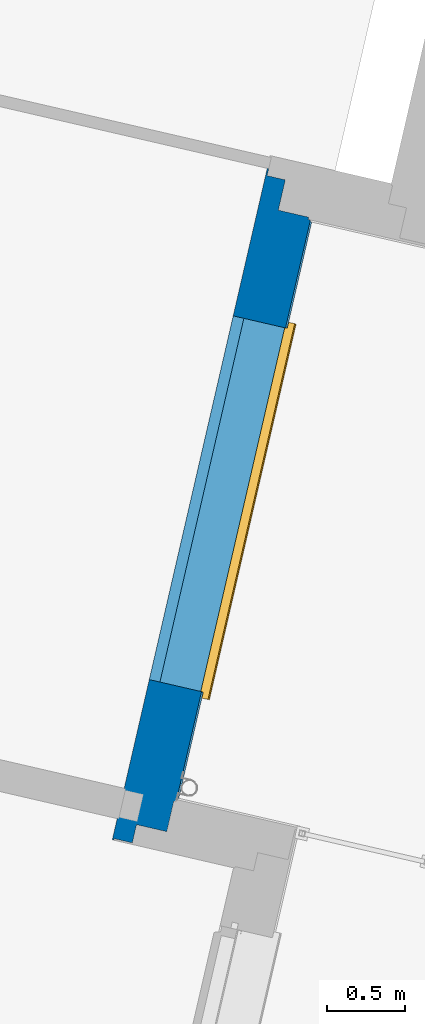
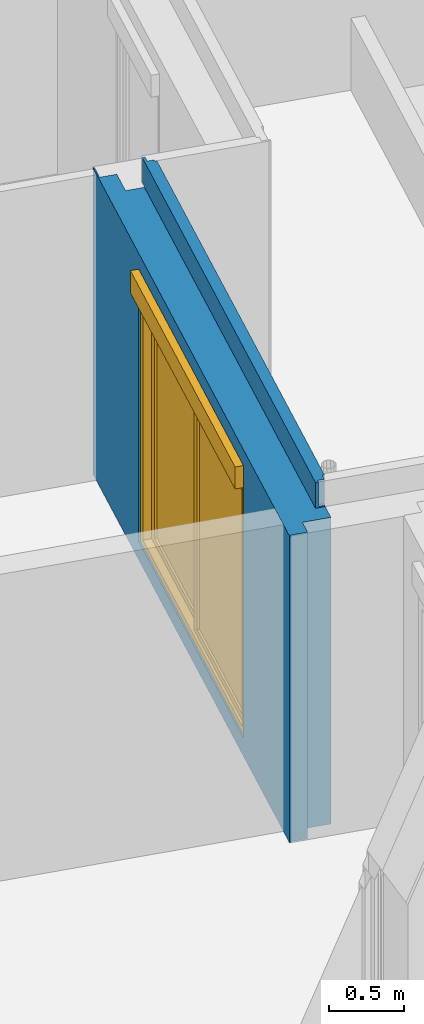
# One storey, part 23 of 119: 1 wall, 1 window, 1 opening.
"""IFC2X3 building model written with IfcOpenShell, lengths in metres."""

from ifc_helpers import new_model, entity, si_unit, converted_unit, derived_unit, money_unit, direction, frame, origin_with_axes, place, context, subcontext, project, spatial, open_shell, faceted_brep, surface_model, source, transform, mapped, material, material_list, type_object, element, fill, save


model = new_model("IFC2X3")

# Units and contexts
model_context = context("Model", 3, precision=1e-05, world=origin_with_axes(), true_north=direction((0.0, 1.0)))
body_context = subcontext(model_context, "Body", "Model", "MODEL_VIEW")
ifc_project = project(units=[si_unit("LENGTHUNIT", "METRE"), si_unit("AREAUNIT", "SQUARE_METRE"), si_unit("VOLUMEUNIT", "CUBIC_METRE"), converted_unit("PLANEANGLEUNIT", "DEGREE", entity("IfcPlaneAngleMeasure", 0.0174532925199), si_unit("PLANEANGLEUNIT", "RADIAN"), dimensions=[0, 0, 0, 0, 0, 0, 0]), si_unit("SOLIDANGLEUNIT", "STERADIAN"), money_unit("EUR"), converted_unit("TIMEUNIT", "Year", entity("IfcTimeMeasure", 31556926.0), si_unit("TIMEUNIT", "SECOND"), dimensions=[0, 0, 1, 0, 0, 0, 0]), si_unit("MASSUNIT", "GRAM", prefix="KILO"), si_unit("THERMODYNAMICTEMPERATUREUNIT", "DEGREE_CELSIUS"), si_unit("LUMINOUSINTENSITYUNIT", "LUMEN"), si_unit("ENERGYUNIT", "JOULE", prefix="MEGA"), derived_unit("THERMALCONDUCTANCEUNIT", [(si_unit("POWERUNIT", "WATT"), 1), (si_unit("LENGTHUNIT", "METRE"), -1), (si_unit("THERMODYNAMICTEMPERATUREUNIT", "KELVIN"), -1)]), derived_unit("SPECIFICHEATCAPACITYUNIT", [(si_unit("ENERGYUNIT", "JOULE"), 1), (si_unit("MASSUNIT", "GRAM", prefix="KILO"), -1), (si_unit("THERMODYNAMICTEMPERATUREUNIT", "KELVIN"), -1)]), derived_unit("MASSDENSITYUNIT", [(si_unit("MASSUNIT", "GRAM", prefix="KILO"), 1), (si_unit("VOLUMEUNIT", "CUBIC_METRE"), -1)])], contexts=[model_context])

# Site, building, storey
site_placement = place(None, origin_with_axes())
site = spatial("IfcSite", under=ifc_project, at=site_placement, Name="Site", CompositionType="ELEMENT")
building_placement = place(site_placement, origin_with_axes())
building = spatial("IfcBuilding", under=site, at=building_placement, Name="Bâtiment", CompositionType="ELEMENT")
storey_placement = place(building_placement, origin_with_axes())
storey = spatial("IfcBuildingStorey", under=building, at=storey_placement, Name="Rez-de-chaussée", CompositionType="ELEMENT", Elevation=0.0)

# Wall, opening, window
ifc_material_1 = material(Name="Métal - Aluminium")
ifc_material_2 = material(Name="Finition ext - Crépis")
ifc_material_3 = material(Name="Etanchéité - Bitume")
ifc_material_4 = material(Name="Béton cellulaire")
ifc_material_5 = material(Name="Mortier")
ifc_material_6 = material(Name="Isolation - Polystyrène expansé")
ifc_material_7 = material(Name="Bloc ELITHERM")
ifc_material_8 = material(Name="Isolation - Polystyrène extrudé")
ifc_material_9 = material(Name="Finition int - Plaque de plâtre")
ifc_material_list = material_list([ifc_material_1, ifc_material_2, ifc_material_3, ifc_material_4, ifc_material_5, ifc_material_6, ifc_material_7, ifc_material_8, ifc_material_9])
wall_type = type_object("IfcWallType", Name="Mur ALKERN + planelle 21 TERRASSE RDC 356 x 2720", PredefinedType="USERDEFINED")
wall_placement = place(storey_placement, frame((-7.00586004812, -13.9465001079, 0.0), z_axis=(0.0, 0.0, 1.0), x_axis=(-0.224876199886, -0.97438734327, 0.0)))
wall = element("IfcWall", 1, at=wall_placement, inside=storey, type_object=wall_type, material=ifc_material_list, Name="Mue bloc ALKERN isolé", ObjectType="SOLIDWALL", context=body_context, shape_type="Brep", body=[
    faceted_brep([(3.0975038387, -0.0035607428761, 0.133633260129), (3.0975038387, -0.0035607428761, 0.15), (3.0975038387, -0.0035607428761, 0.162931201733), (3.8033977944, -0.0035607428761, 0.162931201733), (3.79980250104, -0.0035607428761, 0.161852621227), (3.79980250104, -0.0035607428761, 0.160000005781), (3.79980250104, -0.0035607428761, 0.133633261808), (3.0975038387, -0.00479482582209, 0.15), (3.0975038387, -0.00479482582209, 0.133633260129), (3.0975038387, -0.00479482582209, 0.161852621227), (3.0975038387, -0.03, 0.169414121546), (3.0975038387, -0.0310453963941, 0.169727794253), (3.0975038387, -0.0310453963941, 0.207793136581), (3.0975038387, -0.03, 0.207793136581), (3.0975038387, -0.0300000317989, 0.176532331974), (3.0975038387, -0.03, 0.170774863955), (3.82605305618, -0.0264705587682, 0.169727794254), (3.82500767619, -0.025413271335, 0.169414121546), (3.82605305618, -0.03, 0.170774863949), (3.79980250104, -0.00479482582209, 0.161852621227), (3.82500767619, -0.03, 0.169414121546), (3.79980250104, -0.00479482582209, 0.160000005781), (3.79980250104, -0.00479482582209, 0.133633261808), (3.82605305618, -0.0310453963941, 0.169727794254), (3.82605305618, -0.0310453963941, 0.176532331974), (3.82605305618, -0.0310453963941, 0.207793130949), (3.82605305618, -0.03, 0.207793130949), (3.82605305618, -0.0300000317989, 0.176532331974)], [[[0, 1, 2, 3, 4, 5, 6]], [[7, 1, 0, 8]], [[1, 7, 9, 10, 11, 12, 13, 14, 15, 2]], [[16, 17, 3, 2, 15, 18]], [[19, 4, 3, 17, 20]], [[5, 4, 19, 21]], [[5, 21, 22, 6]], [[8, 0, 6, 22]], [[7, 8, 22, 21, 19, 9]], [[9, 19, 20, 10]], [[10, 20, 23, 11]], [[23, 24, 25, 12, 11]], [[12, 25, 26, 13]], [[13, 26, 27, 14]], [[14, 27, 18, 15]], [[23, 20, 17, 16]], [[18, 27, 24, 23, 16]], [[25, 24, 27, 26]]]),
    faceted_brep([(0.6975038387, -0.00479482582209, 0.15), (0.6975038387, -0.0035607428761, 0.15), (0.6975038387, -0.0035607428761, 0.162931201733), (0.6975038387, -0.03, 0.170774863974), (0.6975038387, -0.0300000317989, 0.176532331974), (0.6975038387, -0.03, 0.207793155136), (0.6975038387, -0.0310453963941, 0.207793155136), (0.6975038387, -0.0310453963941, 0.169727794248), (0.6975038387, -0.03, 0.169414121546), (0.6975038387, -0.00479482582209, 0.161852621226), (0.6975038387, -0.0035607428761, 0.133633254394), (0.6975038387, -0.00479482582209, 0.133633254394), (-0.00356074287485, -0.0035607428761, 0.133633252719), (-0.00356074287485, -0.0035607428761, 0.160000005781), (-0.00356074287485, -0.0035607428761, 0.162931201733), (-0.0254132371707, -0.0254132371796, 0.169414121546), (-0.0299999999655, -0.03, 0.17077486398), (-0.0300000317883, -0.0300000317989, 0.176532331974), (-0.0299999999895, -0.03, 0.207793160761), (-0.0299999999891, -0.0310453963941, 0.207793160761), (-0.030000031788, -0.0310453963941, 0.176532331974), (-0.0299999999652, -0.0310453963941, 0.17077486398), (-0.0264705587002, -0.0310453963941, 0.169727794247), (-0.0254132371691, -0.03, 0.169414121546), (-0.00356074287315, -0.00839012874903, 0.162931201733), (-0.00356074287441, -0.00479482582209, 0.161852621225), (-0.00356074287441, -0.00479482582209, 0.160000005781), (-0.00356074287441, -0.00479482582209, 0.133633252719)], [[[0, 1, 2, 3, 4, 5, 6, 7, 8, 9]], [[10, 1, 0, 11]], [[1, 10, 12, 13, 14, 2]], [[14, 15, 16, 3, 2]], [[3, 16, 17, 4]], [[4, 17, 18, 5]], [[5, 18, 19, 6]], [[20, 21, 22, 7, 6, 19]], [[7, 22, 23, 8]], [[23, 24, 25, 9, 8]], [[11, 0, 9, 25, 26, 27]], [[10, 11, 27, 12]], [[26, 13, 12, 27]], [[13, 26, 25, 24, 14]], [[23, 15, 14, 24]], [[21, 16, 15, 23, 22]], [[21, 20, 17, 16]], [[20, 19, 18, 17]]]),
    faceted_brep([(3.0975038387, -0.0150000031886, 0.176532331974), (3.0975038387, -0.0150000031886, 2.2), (0.6975038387, -0.0150000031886, 2.2), (0.6975038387, -0.0150000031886, 0.176532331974), (-0.0150000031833, -0.0150000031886, 0.176532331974), (-0.0150000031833, -0.0150000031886, 2.72), (3.82500767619, -0.0150000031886, 2.72), (3.82500770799, -0.0150000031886, 0.176532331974), (3.0975038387, -0.0300000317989, 0.176532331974), (3.0975038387, -0.0299999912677, 2.2), (0.6975038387, -0.0299999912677, 2.2), (0.6975038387, -0.0300000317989, 0.176532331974), (-0.0150000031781, -0.0300000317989, 0.176532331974), (-0.0150000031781, -0.0299999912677, 2.72), (3.82500767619, -0.0299999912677, 2.72), (3.82500770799, -0.0300000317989, 0.176532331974)], [[[0, 1, 2, 3, 4, 5, 6, 7]], [[1, 0, 8, 9]], [[2, 1, 9, 10]], [[3, 2, 10, 11]], [[3, 11, 12, 4]], [[13, 5, 4, 12]], [[14, 6, 5, 13]], [[6, 14, 15, 7]], [[8, 0, 7, 15]], [[9, 8, 15, 14, 13, 12, 11, 10]]]),
    faceted_brep([(0.6975038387, -0.0299999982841, 0.15), (0.6975038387, -0.0299999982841, 0.09), (0.6975038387, -0.02, 0.09), (0.6975038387, -0.02, 0.15), (0.6975038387, -0.02, 0.160000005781), (0.6975038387, -0.0300000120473, 0.160000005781), (-0.0199999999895, -0.0300000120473, 0.160000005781), (-0.0199999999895, -0.0299999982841, 0.01), (3.82500767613, -0.0299999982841, 0.01), (3.82500768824, -0.0300000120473, 0.160000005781), (3.0975038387, -0.0300000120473, 0.160000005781), (3.0975038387, -0.0299999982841, 0.15), (3.0975038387, -0.0299999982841, 0.09), (3.0975038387, -0.02, 0.09), (3.0975038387, -0.02, 0.15), (3.0975038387, -0.02, 0.160000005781), (3.82500768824, -0.02, 0.160000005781), (3.82500767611, -0.02, 0.01), (-0.019999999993, -0.02, 0.01), (-0.019999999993, -0.02, 0.160000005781)], [[[0, 1, 2, 3, 4, 5]], [[1, 0, 5, 6, 7, 8, 9, 10, 11, 12]], [[13, 2, 1, 12]], [[13, 14, 15, 16, 17, 18, 19, 4, 3, 2]], [[4, 19, 6, 5]], [[6, 19, 18, 7]], [[17, 8, 7, 18]], [[16, 9, 8, 17]], [[10, 9, 16, 15]], [[14, 13, 12, 11, 10, 15]]]),
    faceted_brep([(3.8730076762, -0.0780000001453, 2.72), (3.87300767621, -0.03, 2.72), (-0.0299999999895, -0.03, 2.72), (-0.0299999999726, -0.0780000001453, 2.72), (3.87300767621, -0.03, 2.51999999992), (3.8730076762, -0.0780000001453, 2.51999999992), (-0.0299999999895, -0.03, 2.51999999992), (-0.0299999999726, -0.0780000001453, 2.51999999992)], [[[0, 1, 2, 3]], [[4, 1, 0, 5]], [[1, 4, 6, 2]], [[3, 2, 6, 7]], [[5, 0, 3, 7]], [[4, 5, 7, 6]]]),
    faceted_brep([(-0.0299999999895, -0.03, 2.50955), (-0.0299999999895, -0.03, 2.52), (3.89300766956, -0.03, 2.52), (3.89300766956, -0.03, 2.50955002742), (-0.0299999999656, -0.098, 2.52), (-0.0299999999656, -0.098, 2.50955), (3.89300766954, -0.098, 2.52), (3.89300766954, -0.098, 2.50955002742)], [[[0, 1, 2, 3]], [[4, 1, 0, 5]], [[1, 4, 6, 2]], [[7, 3, 2, 6]], [[5, 0, 3, 7]], [[4, 5, 7, 6]]]),
    faceted_brep([(3.89300766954, -0.0780000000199, 2.51999999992), (-0.0779999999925, -0.0780000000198, 2.51999999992), (-0.0779999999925, -0.0780000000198, 2.72), (3.89300766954, -0.0780000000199, 2.72), (3.89300766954, -0.0980000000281, 2.51999999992), (-0.0779999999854, -0.0980000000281, 2.51999999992), (-0.0779999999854, -0.0980000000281, 2.72), (3.89300766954, -0.0980000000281, 2.72)], [[[0, 1, 2, 3]], [[4, 5, 1, 0]], [[5, 6, 2, 1]], [[3, 2, 6, 7]], [[7, 4, 0, 3]], [[7, 6, 5, 4]]]),
    faceted_brep([(0.6975038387, -0.229999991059, 0.15), (0.6975038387, -0.229999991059, 0.09), (0.6975038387, -0.0300000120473, 0.09), (0.6975038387, -0.0300000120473, 0.15), (0.6975038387, -0.0300000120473, 0.160000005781), (0.6975038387, -0.03, 0.169414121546), (0.6975038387, -0.0310453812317, 0.169727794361), (0.6975038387, -0.0310453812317, 0.207793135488), (0.6975038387, -0.03, 0.207793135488), (0.6975038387, -0.03, 2.2), (0.6975038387, -0.218560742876, 2.2), (0.6975038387, -0.218560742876, 2.38), (0.6975038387, -0.229999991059, 2.38), (0.6975038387, -0.229999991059, 2.2), (-0.0299999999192, -0.229999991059, 0.207793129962), (-0.0310453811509, -0.229999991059, 0.207793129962), (-0.0310453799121, -0.229999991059, 0.169727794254), (-0.0299999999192, -0.229999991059, 0.169414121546), (-0.0300000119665, -0.229999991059, 0.160000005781), (-0.0299999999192, -0.229999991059, 0.0), (4.02500765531, -0.229999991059, 0.0), (4.02500765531, -0.229999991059, 2.50955001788), (-0.0299999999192, -0.229999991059, 2.50955001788), (3.0975038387, -0.229999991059, 2.38), (3.0975038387, -0.229999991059, 2.2), (3.0975038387, -0.229999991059, 0.15), (3.0975038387, -0.229999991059, 0.09), (3.0975038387, -0.0300000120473, 0.09), (3.0975038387, -0.0300000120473, 0.15), (3.0975038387, -0.0300000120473, 0.160000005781), (4.02500765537, -0.0300000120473, 0.160000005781), (4.02500765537, -0.03, 0.0), (-0.0299999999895, -0.03, 0.0), (-0.0300000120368, -0.0300000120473, 0.160000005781), (-0.0299999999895, -0.03, 0.169414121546), (-0.0310453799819, -0.0310453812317, 0.169727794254), (-0.0299999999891, -0.0310453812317, 0.207793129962), (-0.0310453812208, -0.0310453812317, 0.207793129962), (-0.0299999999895, -0.03, 0.207793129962), (-0.0299999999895, -0.03, 2.50955001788), (4.02500765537, -0.03, 2.50955001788), (4.02500765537, -0.03, 0.207793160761), (3.0975038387, -0.03, 0.207793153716), (3.0975038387, -0.03, 2.2), (3.0975038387, -0.218560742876, 2.2), (3.0975038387, -0.218560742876, 2.38), (4.02500765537, -0.03, 0.169414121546), (4.02500765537, -0.0310453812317, 0.169727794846), (4.02500765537, -0.0310453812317, 0.207793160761), (4.02500765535, -0.0979999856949, 2.50955001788), (-0.0299999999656, -0.0979999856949, 2.50955001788), (3.0975038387, -0.0310453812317, 0.207793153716), (3.0975038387, -0.0310453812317, 0.16972779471), (3.0975038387, -0.03, 0.169414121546)], [[[0, 1, 2, 3, 4, 5, 6, 7, 8, 9, 10, 11, 12, 13]], [[14, 15, 16, 17, 18, 19, 20, 21, 22], [1, 0, 13, 12, 23, 24, 25, 26]], [[27, 2, 1, 26]], [[27, 28, 29, 30, 31, 32, 33, 4, 3, 2]], [[33, 34, 5, 4]], [[34, 35, 6, 5]], [[36, 7, 6, 35, 37]], [[36, 38, 8, 7]], [[9, 8, 38, 39, 40, 41, 42, 43]], [[10, 9, 43, 44]], [[44, 45, 11, 10]], [[12, 11, 45, 23]], [[37, 15, 14, 36]], [[15, 37, 35, 16]], [[16, 35, 34, 17]], [[18, 17, 34, 33]], [[18, 33, 32, 19]], [[19, 32, 31, 20]], [[46, 47, 48, 41, 40, 49, 21, 20, 31, 30]], [[22, 21, 49, 50]], [[39, 38, 36, 14, 22, 50]], [[28, 27, 26, 25, 24, 23, 45, 44, 43, 42, 51, 52, 53, 29]], [[46, 30, 29, 53]], [[50, 49, 40, 39]], [[41, 48, 51, 42]], [[47, 46, 53, 52]], [[48, 47, 52, 51]]]),
    faceted_brep([(0.6975038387, -0.289560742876, 0.15), (0.6975038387, -0.289560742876, 0.09), (0.6975038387, -0.22999997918, 0.09), (0.6975038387, -0.22999997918, 0.15), (0.6975038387, -0.22999997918, 2.2), (0.6975038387, -0.22999997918, 2.38), (0.6975038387, -0.350000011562, 2.38), (0.6975038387, -0.350000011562, 2.2), (0.6975038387, -0.350000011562, 0.15), (3.0975038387, -0.289560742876, 0.15), (3.0975038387, -0.289560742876, 0.09), (3.0975038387, -0.22999997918, 0.09), (-0.229999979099, -0.22999997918, 2.50955001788), (4.14500768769, -0.22999997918, 2.50955001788), (4.14500768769, -0.22999997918, 0.0), (-0.229999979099, -0.22999997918, 0.0), (3.0975038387, -0.22999997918, 0.15), (3.0975038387, -0.22999997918, 2.2), (3.0975038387, -0.22999997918, 2.38), (3.0975038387, -0.350000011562, 2.38), (4.14500768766, -0.350000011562, 2.50955001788), (-0.229999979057, -0.350000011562, 2.50955001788), (-0.229999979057, -0.350000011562, 0.0), (4.14500768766, -0.350000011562, 0.0), (3.0975038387, -0.350000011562, 2.2), (3.0975038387, -0.350000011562, 0.15)], [[[0, 1, 2, 3, 4, 5, 6, 7, 8]], [[0, 9, 10, 1]], [[11, 2, 1, 10]], [[12, 13, 14, 15], [11, 16, 17, 18, 5, 4, 3, 2]], [[18, 19, 6, 5]], [[20, 21, 22, 23], [8, 7, 6, 19, 24, 25]], [[9, 0, 8, 25]], [[16, 11, 10, 9, 25, 24, 19, 18, 17]], [[21, 20, 13, 12]], [[14, 13, 20, 23]], [[15, 14, 23, 22]], [[22, 21, 12, 15]]]),
    faceted_brep([(4.15500765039, -0.350000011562, 0.0), (-0.350000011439, -0.350000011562, 0.0), (-0.350000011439, -0.350000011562, 2.50955001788), (4.15500765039, -0.350000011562, 2.50955002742), (3.0975038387, -0.350000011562, 2.2), (3.0975038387, -0.350000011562, 2.38), (0.6975038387, -0.350000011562, 2.38), (0.6975038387, -0.350000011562, 2.2), (0.6975038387, -0.350000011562, 0.15), (3.0975038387, -0.350000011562, 0.15), (4.15500765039, -0.359999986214, 0.0), (-0.350000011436, -0.359999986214, 0.0), (-0.350000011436, -0.359999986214, 2.50955001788), (4.15500765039, -0.359999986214, 2.50955002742), (3.0975038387, -0.359999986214, 2.2), (3.0975038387, -0.359999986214, 2.38), (0.6975038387, -0.359999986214, 2.38), (0.6975038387, -0.359999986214, 2.2), (0.6975038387, -0.359999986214, 0.15), (3.0975038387, -0.359999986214, 0.15)], [[[0, 1, 2, 3], [4, 5, 6, 7, 8, 9]], [[1, 0, 10, 11]], [[2, 1, 11, 12]], [[12, 13, 3, 2]], [[0, 3, 13, 10]], [[5, 4, 14, 15]], [[6, 5, 15, 16]], [[7, 6, 16, 17]], [[7, 17, 18, 8]], [[8, 18, 19, 9]], [[14, 4, 9, 19]], [[11, 10, 13, 12], [15, 14, 19, 18, 17, 16]]]),
])
opening_placement = place(wall_placement, frame((1.8975038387, 0.0, 0.15), z_axis=(0.0, 0.0, 1.0), x_axis=(1.0, 0.0, 0.0)))
opening = element("IfcOpeningElement", 2, at=opening_placement, cuts=wall, Name="MEN 30", context=body_context, shape_type="Brep", body=[
    faceted_brep([(-1.2, -0.248560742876, 0.0), (1.2, -0.248560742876, 0.0), (1.2, -0.849999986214, 0.0), (-1.2, -0.849999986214, 0.0), (-1.2, -0.248560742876, 2.05), (1.2, -0.248560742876, 2.05), (1.2, -0.849999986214, 2.05), (-1.2, -0.849999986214, 2.05)], [[[0, 1, 2, 3]], [[0, 4, 5, 1]], [[1, 5, 6, 2]], [[3, 2, 6, 7]], [[4, 0, 3, 7]], [[5, 4, 7, 6]]]),
    faceted_brep([(-1.2, -0.248560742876, 0.0), (-1.2, -0.248560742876, 2.05), (-1.2, 0.352878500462, 2.05), (-1.2, 0.352878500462, 0.0), (1.2, -0.248560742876, 0.0), (1.2, -0.248560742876, 2.05), (1.2, 0.352878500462, 2.05), (1.2, 0.352878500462, 0.0)], [[[0, 1, 2, 3]], [[0, 4, 5, 1]], [[1, 5, 6, 2]], [[3, 2, 6, 7]], [[4, 0, 3, 7]], [[5, 4, 7, 6]]]),
    faceted_brep([(-1.2, -0.248560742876, 0.0), (-1.2, -0.248560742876, 2.05), (-1.2, 0.352878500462, 2.05), (-1.2, 0.352878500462, 0.0), (1.2, -0.248560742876, 0.0), (1.2, -0.248560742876, 2.05), (1.2, 0.352878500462, 2.05), (1.2, 0.352878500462, 0.0)], [[[0, 1, 2, 3]], [[0, 4, 5, 1]], [[1, 5, 6, 2]], [[3, 2, 6, 7]], [[4, 0, 3, 7]], [[5, 4, 7, 6]]]),
    faceted_brep([(-1.2, -0.218560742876, 2.05), (1.2, -0.218560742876, 2.05), (1.2, -0.819999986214, 2.05), (-1.2, -0.819999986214, 2.05), (-1.2, -0.218560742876, 2.23), (1.2, -0.218560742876, 2.23), (1.2, -0.819999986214, 2.23), (-1.2, -0.819999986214, 2.23)], [[[0, 1, 2, 3]], [[0, 4, 5, 1]], [[1, 5, 6, 2]], [[3, 2, 6, 7]], [[4, 0, 3, 7]], [[5, 4, 7, 6]]]),
    faceted_brep([(-1.2, -0.289560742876, 0.0), (1.2, -0.289560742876, 0.0), (1.2, 0.311878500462, 0.0), (-1.2, 0.311878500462, 0.0), (-1.2, -0.289560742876, -0.06), (1.2, -0.289560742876, -0.06), (1.2, 0.311878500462, -0.06), (-1.2, 0.311878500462, -0.06)], [[[0, 1, 2, 3]], [[0, 4, 5, 1]], [[1, 5, 6, 2]], [[3, 2, 6, 7]], [[4, 0, 3, 7]], [[5, 4, 7, 6]]]),
])
window_style = type_object("IfcWindowStyle", Name="Baie générique 2017 v2", ConstructionType="NOTDEFINED", OperationType="NOTDEFINED", ParameterTakesPrecedence=False, Sizeable=False)
shared_shape = source(origin_with_axes(), body_context, "Body", "SurfaceModel", [
    faceted_brep([(1.2, 0.1, 0.0), (1.2, 0.0, 0.0), (-1.2, 0.0, 0.0), (-1.2, 0.1, 0.0), (1.2, 0.1, 2.05), (1.2, 0.0, 2.05), (-1.2, 0.0, 2.05), (1.14, 0.0, 0.05), (-1.14, 0.0, 0.05), (-1.14, 0.0, 2.0), (1.14, 0.0, 2.0), (-1.2, 0.1, 2.05), (1.14, 0.1, 0.05), (1.14, 0.1, 2.0), (-1.14, 0.1, 2.0), (-1.14, 0.1, 0.05)], [[[0, 1, 2, 3]], [[4, 5, 1, 0]], [[1, 5, 6, 2], [7, 8, 9, 10]], [[3, 2, 6, 11]], [[0, 3, 11, 4], [12, 13, 14, 15]], [[11, 6, 5, 4]], [[15, 8, 7, 12]], [[14, 9, 8, 15]], [[13, 10, 9, 14]], [[12, 7, 10, 13]]]),
    faceted_brep([(1.14, 0.04, 0.05), (-0.035, 0.04, 0.05), (-0.035, 0.04, 2.0), (1.14, 0.04, 2.0), (0.035, 0.04, 1.93), (0.035, 0.04, 0.1), (1.07, 0.04, 0.1), (1.07, 0.04, 1.93), (-0.035, 0.02, 0.05), (1.14, 0.02, 0.05), (1.14, 0.0, 0.05), (-0.035, 0.0, 0.05), (-0.035, 0.02, 2.0), (-0.035, 0.0, 2.0), (1.14, 0.0, 2.0), (1.14, 0.02, 2.0), (0.035, 0.0, 1.93), (0.035, 0.0, 0.1), (1.07, 0.0, 0.1), (1.07, 0.0, 1.93)], [[[0, 1, 2, 3], [4, 5, 6, 7]], [[8, 1, 0, 9, 10, 11]], [[12, 2, 1, 8, 11, 13]], [[13, 14, 15, 3, 2, 12]], [[14, 10, 9, 0, 3, 15]], [[4, 16, 17, 5]], [[17, 18, 6, 5]], [[18, 19, 7, 6]], [[7, 19, 16, 4]], [[13, 11, 10, 14], [17, 16, 19, 18]]]),
    surface_model("IfcShellBasedSurfaceModel", [(1.14, 0.04, 0.05), (-0.035, 0.04, 0.05), (-0.035, 0.04, 2.0), (1.14, 0.04, 2.0), (1.07, 0.04, 0.1), (1.07, 0.04, 1.93), (0.035, 0.04, 1.93), (0.035, 0.04, 0.1)], [open_shell([[[0, 1, 2, 3], [4, 5, 6, 7]]])]),
    surface_model("IfcShellBasedSurfaceModel", [(1.14, 0.0, 0.05), (-0.035, 0.0, 0.05), (-0.035, 0.0, 2.0), (1.14, 0.0, 2.0), (1.07, 0.0, 0.1), (1.07, 0.0, 1.93), (0.035, 0.0, 1.93), (0.035, 0.0, 0.1)], [open_shell([[[0, 1, 2, 3], [4, 5, 6, 7]]])]),
    faceted_brep([(1.07, 0.0225, 0.1), (1.07, 0.0175, 0.1), (0.035, 0.0175, 0.1), (0.035, 0.0225, 0.1), (1.07, 0.0225, 1.93), (1.07, 0.0175, 1.93), (0.035, 0.0175, 1.93), (0.035, 0.0225, 1.93)], [[[0, 1, 2, 3]], [[4, 5, 1, 0]], [[1, 5, 6, 2]], [[3, 2, 6, 7]], [[0, 3, 7, 4]], [[7, 6, 5, 4]]]),
    faceted_brep([(0.035, 0.08, 0.05), (-1.14, 0.08, 0.05), (-1.14, 0.08, 2.0), (0.035, 0.08, 2.0), (-1.07, 0.08, 1.93), (-1.07, 0.08, 0.1), (-0.035, 0.08, 0.1), (-0.035, 0.08, 1.93), (-1.14, 0.06, 0.05), (0.035, 0.06, 0.05), (0.035, 0.04, 0.05), (-1.14, 0.04, 0.05), (-1.14, 0.06, 2.0), (-1.14, 0.04, 2.0), (0.035, 0.04, 2.0), (0.035, 0.06, 2.0), (-1.07, 0.04, 1.93), (-1.07, 0.04, 0.1), (-0.035, 0.04, 0.1), (-0.035, 0.04, 1.93)], [[[0, 1, 2, 3], [4, 5, 6, 7]], [[8, 1, 0, 9, 10, 11]], [[12, 2, 1, 8, 11, 13]], [[13, 14, 15, 3, 2, 12]], [[14, 10, 9, 0, 3, 15]], [[4, 16, 17, 5]], [[17, 18, 6, 5]], [[18, 19, 7, 6]], [[7, 19, 16, 4]], [[13, 11, 10, 14], [17, 16, 19, 18]]]),
    surface_model("IfcShellBasedSurfaceModel", [(0.035, 0.08, 0.05), (-1.14, 0.08, 0.05), (-1.14, 0.08, 2.0), (0.035, 0.08, 2.0), (-0.035, 0.08, 0.1), (-0.035, 0.08, 1.93), (-1.07, 0.08, 1.93), (-1.07, 0.08, 0.1)], [open_shell([[[0, 1, 2, 3], [4, 5, 6, 7]]])]),
    surface_model("IfcShellBasedSurfaceModel", [(0.035, 0.04, 0.05), (-1.14, 0.04, 0.05), (-1.14, 0.04, 2.0), (0.035, 0.04, 2.0), (-0.035, 0.04, 0.1), (-0.035, 0.04, 1.93), (-1.07, 0.04, 1.93), (-1.07, 0.04, 0.1)], [open_shell([[[0, 1, 2, 3], [4, 5, 6, 7]]])]),
    faceted_brep([(-0.035, 0.0625, 0.1), (-0.035, 0.0575, 0.1), (-1.07, 0.0575, 0.1), (-1.07, 0.0625, 0.1), (-0.035, 0.0625, 1.93), (-0.035, 0.0575, 1.93), (-1.07, 0.0575, 1.93), (-1.07, 0.0625, 1.93)], [[[0, 1, 2, 3]], [[4, 5, 1, 0]], [[1, 5, 6, 2]], [[3, 2, 6, 7]], [[0, 3, 7, 4]], [[7, 6, 5, 4]]]),
    faceted_brep([(1.2, -0.03, 0.0), (1.2, -0.03, 2.05), (1.175, -0.03, 2.05), (1.175, -0.03, 0.0), (1.2, -0.002, 0.0), (1.2, -0.002, 2.05), (1.175, -0.002, 2.05), (1.175, -0.004, 2.05), (1.198, -0.004, 2.05), (1.198, -0.028, 2.05), (1.175, -0.028, 2.05), (1.175, -0.028, 0.0), (1.198, -0.028, 0.0), (1.198, -0.004, 0.0), (1.175, -0.004, 0.0), (1.175, -0.002, 0.0)], [[[0, 1, 2, 3]], [[4, 5, 1, 0]], [[1, 5, 6, 7, 8, 9, 10, 2]], [[3, 2, 10, 11]], [[0, 3, 11, 12, 13, 14, 15, 4]], [[15, 6, 5, 4]], [[14, 7, 6, 15]], [[13, 8, 7, 14]], [[12, 9, 8, 13]], [[11, 10, 9, 12]]]),
    faceted_brep([(-1.2, -0.03, 0.0), (-1.175, -0.03, 0.0), (-1.175, -0.03, 2.05), (-1.2, -0.03, 2.05), (-1.2, -0.002, 0.0), (-1.175, -0.002, 0.0), (-1.175, -0.004, 0.0), (-1.198, -0.004, 0.0), (-1.198, -0.028, 0.0), (-1.175, -0.028, 0.0), (-1.175, -0.028, 2.05), (-1.198, -0.028, 2.05), (-1.198, -0.004, 2.05), (-1.175, -0.004, 2.05), (-1.175, -0.002, 2.05), (-1.2, -0.002, 2.05)], [[[0, 1, 2, 3]], [[0, 4, 5, 6, 7, 8, 9, 1]], [[1, 9, 10, 2]], [[3, 2, 10, 11, 12, 13, 14, 15]], [[4, 0, 3, 15]], [[5, 4, 15, 14]], [[6, 5, 14, 13]], [[7, 6, 13, 12]], [[8, 7, 12, 11]], [[9, 8, 11, 10]]]),
    faceted_brep([(-1.198, -0.028, 2.05), (-1.198, -0.028, 2.228), (1.198, -0.028, 2.228), (1.198, -0.028, 2.05), (-1.198, -0.03, 2.05), (-1.198, -0.03, 2.23), (-1.198, 0.17, 2.23), (-1.198, 0.17, 2.05), (-1.198, 0.168, 2.05), (-1.198, 0.168, 2.228), (1.198, 0.168, 2.228), (1.198, 0.168, 2.05), (1.198, 0.17, 2.05), (1.198, 0.17, 2.23), (1.198, -0.03, 2.23), (1.198, -0.03, 2.05)], [[[0, 1, 2, 3]], [[0, 4, 5, 6, 7, 8, 9, 1]], [[1, 9, 10, 2]], [[3, 2, 10, 11, 12, 13, 14, 15]], [[4, 0, 3, 15]], [[5, 4, 15, 14]], [[6, 5, 14, 13]], [[7, 6, 13, 12]], [[8, 7, 12, 11]], [[9, 8, 11, 10]]]),
    faceted_brep([(-1.198, 0.0724697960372, 2.12436337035), (-1.198, 0.0555495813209, 2.12050144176), (-1.198, 0.041980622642, 2.13132232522), (-1.198, 0.041980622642, 2.14867767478), (-1.198, 0.0555495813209, 2.15949855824), (-1.198, 0.0724697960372, 2.15563662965), (-1.198, 0.08, 2.14), (1.198, 0.0724697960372, 2.12436337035), (1.198, 0.0555495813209, 2.12050144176), (1.198, 0.041980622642, 2.13132232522), (1.198, 0.041980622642, 2.14867767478), (1.198, 0.0555495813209, 2.15949855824), (1.198, 0.0724697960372, 2.15563662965), (1.198, 0.08, 2.14)], [[[0, 1, 2, 3, 4, 5, 6]], [[1, 0, 7, 8]], [[2, 1, 8, 9]], [[3, 2, 9, 10]], [[4, 3, 10, 11]], [[5, 4, 11, 12]], [[6, 5, 12, 13]], [[0, 6, 13, 7]], [[7, 13, 12, 11, 10, 9, 8]]]),
    faceted_brep([(-1.188, 0.130275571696, 2.10615706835), (-1.188, 0.108632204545, 2.07901714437), (-1.188, 0.0773566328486, 2.06395562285), (-1.188, 0.0426433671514, 2.06395562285), (-1.188, 0.011367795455, 2.07901714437), (-1.188, -0.0102755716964, 2.10615706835), (-1.188, -0.018, 2.14), (-1.188, -0.0102755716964, 2.17384293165), (-1.188, 0.011367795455, 2.20098285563), (-1.188, 0.0426433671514, 2.21604437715), (-1.188, 0.0773566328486, 2.21604437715), (-1.188, 0.108632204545, 2.20098285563), (-1.188, 0.130275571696, 2.17384293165), (-1.188, 0.138, 2.14), (1.188, 0.130275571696, 2.10615706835), (1.188, 0.108632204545, 2.07901714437), (1.188, 0.0773566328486, 2.06395562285), (1.188, 0.0426433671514, 2.06395562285), (1.188, 0.011367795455, 2.07901714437), (1.188, -0.0102755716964, 2.10615706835), (1.188, -0.018, 2.14), (1.188, -0.0102755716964, 2.17384293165), (1.188, 0.011367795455, 2.20098285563), (1.188, 0.0426433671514, 2.21604437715), (1.188, 0.0773566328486, 2.21604437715), (1.188, 0.108632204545, 2.20098285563), (1.188, 0.130275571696, 2.17384293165), (1.188, 0.138, 2.14)], [[[0, 1, 2, 3, 4, 5, 6, 7, 8, 9, 10, 11, 12, 13]], [[1, 0, 14, 15]], [[2, 1, 15, 16]], [[3, 2, 16, 17]], [[4, 3, 17, 18]], [[5, 4, 18, 19]], [[6, 5, 19, 20]], [[7, 6, 20, 21]], [[8, 7, 21, 22]], [[9, 8, 22, 23]], [[10, 9, 23, 24]], [[11, 10, 24, 25]], [[12, 11, 25, 26]], [[13, 12, 26, 27]], [[0, 13, 27, 14]], [[14, 27, 26, 25, 24, 23, 22, 21, 20, 19, 18, 17, 16, 15]]]),
    faceted_brep([(-1.2, 0.17, 2.05), (-1.2, 0.17, 2.23), (-1.198, 0.17, 2.23), (-1.198, 0.17, 2.05), (-1.2, -0.03, 2.05), (-1.2, -0.03, 2.23), (-1.198, -0.03, 2.23), (-1.198, -0.03, 2.05)], [[[0, 1, 2, 3]], [[0, 4, 5, 1]], [[1, 5, 6, 2]], [[3, 2, 6, 7]], [[4, 0, 3, 7]], [[5, 4, 7, 6]]]),
    faceted_brep([(1.198, 0.17, 2.05), (1.198, 0.17, 2.23), (1.2, 0.17, 2.23), (1.2, 0.17, 2.05), (1.198, -0.03, 2.05), (1.198, -0.03, 2.23), (1.2, -0.03, 2.23), (1.2, -0.03, 2.05)], [[[0, 1, 2, 3]], [[0, 4, 5, 1]], [[1, 5, 6, 2]], [[3, 2, 6, 7]], [[4, 0, 3, 7]], [[5, 4, 7, 6]]]),
    faceted_brep([(-1.198, -0.004, 2.05), (-1.198, 0.168, 2.05), (1.198, 0.168, 2.05), (1.198, -0.004, 2.05), (-1.198, -0.004, 2.052), (-1.198, 0.168, 2.052), (1.198, 0.168, 2.052), (1.198, -0.004, 2.052)], [[[0, 1, 2, 3]], [[0, 4, 5, 1]], [[1, 5, 6, 2]], [[3, 2, 6, 7]], [[4, 0, 3, 7]], [[5, 4, 7, 6]]]),
    faceted_brep([(-1.188, -0.006, 2.05), (-1.188, -0.006, 2.14), (1.188, -0.006, 2.14), (1.188, -0.006, 2.05), (-1.188, -0.026, 2.05), (-1.188, -0.026, 2.14), (1.188, -0.026, 2.14), (1.188, -0.026, 2.05)], [[[0, 1, 2, 3]], [[1, 0, 4, 5]], [[2, 1, 5, 6]], [[3, 2, 6, 7]], [[4, 0, 3, 7]], [[5, 4, 7, 6]]]),
    faceted_brep([(-1.2, -0.00167949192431, -0.01), (1.2, -0.00167949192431, -0.01), (1.2, 0.0, -0.00373205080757), (1.24, 0.0, -0.00373205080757), (1.24, 0.001, 0.0), (-1.24, 0.001, 0.0), (-1.24, 0.0, -0.00373205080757), (-1.2, 0.0, -0.00373205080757), (-1.2, -0.009, -0.0173205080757), (1.2, -0.009, -0.0173205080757), (1.2, -0.245, -0.02), (1.2, -0.245, -0.06), (1.2, 0.0, -0.06), (1.2, -0.019, -0.02), (1.24, 0.0, -0.06), (1.24, 0.041, -0.06), (1.24, 0.041, 0.0), (-1.24, 0.041, 0.0), (-1.24, 0.041, -0.06), (-1.24, 0.0, -0.06), (-1.2, 0.0, -0.06), (-1.2, -0.245, -0.06), (-1.2, -0.245, -0.02), (-1.2, -0.019, -0.02), (1.24, -0.245, -0.02), (1.24, -0.245, -0.06), (1.24, -0.275, -0.06), (-1.24, -0.275, -0.06), (-1.24, -0.245, -0.06), (-1.24, -0.245, -0.02), (-1.24, -0.285, -0.02), (1.24, -0.285, -0.02), (1.24, -0.295, -0.03), (1.24, -0.295, -0.06), (1.24, -0.285, -0.06), (1.24, -0.285, -0.05), (1.24, -0.275, -0.05), (1.24, -0.292071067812, -0.0229289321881), (-1.24, -0.275, -0.05), (-1.24, -0.285, -0.05), (-1.24, -0.285, -0.06), (-1.24, -0.295, -0.06), (-1.24, -0.295, -0.03), (-1.24, -0.292071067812, -0.0229289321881)], [[[0, 1, 2, 3, 4, 5, 6, 7]], [[8, 9, 1, 0]], [[10, 11, 12, 2, 1, 9, 13]], [[3, 2, 12, 14]], [[4, 3, 14, 15, 16]], [[16, 17, 5, 4]], [[6, 5, 17, 18, 19]], [[19, 20, 7, 6]], [[7, 20, 21, 22, 23, 8, 0]], [[23, 13, 9, 8]], [[10, 24, 25, 11]], [[21, 20, 19, 18, 15, 14, 12, 11, 25, 26, 27, 28]], [[22, 29, 30, 31, 24, 10, 13, 23]], [[15, 18, 17, 16]], [[22, 21, 28, 29]], [[32, 33, 34, 35, 36, 26, 25, 24, 31, 37]], [[36, 38, 27, 26]], [[28, 27, 38, 39, 40, 41, 42, 43, 30, 29]], [[31, 30, 43, 37]], [[32, 42, 41, 33]], [[33, 41, 40, 34]], [[34, 40, 39, 35]], [[35, 39, 38, 36]], [[37, 43, 42, 32]]]),
])
window_placement = place(opening_placement, frame((1.2, 0.0, 0.0), z_axis=(0.0, 0.0, 1.0), x_axis=(-1.0, 0.0, 0.0)))
window = element("IfcWindow", 3, at=window_placement, inside=storey, type_object=window_style, Name="MEN 30", ObjectType="WINDOW", OverallHeight=2.05, OverallWidth=2.4, context=body_context, shape_type="MappedRepresentation", body=[
    mapped(shared_shape, transform((1.2, 0.248560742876, 0.0))),
])
fill(opening, window)

save(model, "model.ifc")
